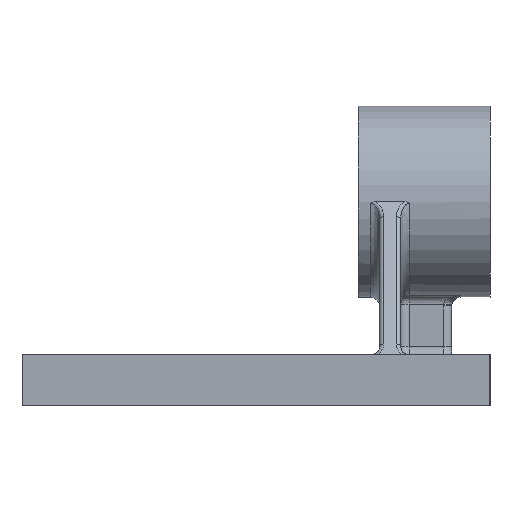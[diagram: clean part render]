
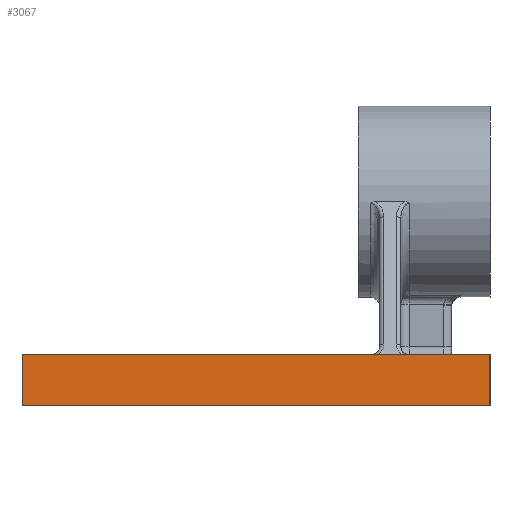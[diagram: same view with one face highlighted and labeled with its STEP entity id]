
A CAD part, left-side view. The second image highlights one B-rep face of the part: STEP entity #3067.
In plain terms, the highlighted planar face has unit normal (-1, 0, 0).
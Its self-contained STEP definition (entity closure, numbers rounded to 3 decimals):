
#2170=CARTESIAN_POINT('',(-90.,55.,12.));
#2171=VERTEX_POINT('',#2170);
#2178=CARTESIAN_POINT('',(-90.0,-55.,12.));
#2179=VERTEX_POINT('',#2178);
#2180=CARTESIAN_POINT('',(-90.0,-55.,12.));
#2181=DIRECTION('',(0.0,1.0,0.0));
#2182=VECTOR('',#2181,110.0);
#2183=LINE('',#2180,#2182);
#2184=EDGE_CURVE('',#2179,#2171,#2183,.T.);
#3026=CARTESIAN_POINT('',(-90.0,-55.,0.0));
#3027=VERTEX_POINT('',#3026);
#3028=CARTESIAN_POINT('',(-90.0,-55.,0.0));
#3029=DIRECTION('',(0.0,0.0,1.0));
#3030=VECTOR('',#3029,12.);
#3031=LINE('',#3028,#3030);
#3032=EDGE_CURVE('',#3027,#2179,#3031,.T.);
#3044=CARTESIAN_POINT('',(-90.0,-55.,0.0));
#3045=DIRECTION('',(-1.0,0.0,0.0));
#3046=DIRECTION('',(0.0,0.0,1.0));
#3047=AXIS2_PLACEMENT_3D('',#3044,#3045,#3046);
#3048=PLANE('',#3047);
#3049=ORIENTED_EDGE('',*,*,#2184,.T.);
#3050=CARTESIAN_POINT('',(-90.,55.,0.0));
#3051=VERTEX_POINT('',#3050);
#3052=CARTESIAN_POINT('',(-90.,55.,0.0));
#3053=DIRECTION('',(0.0,0.0,1.0));
#3054=VECTOR('',#3053,12.);
#3055=LINE('',#3052,#3054);
#3056=EDGE_CURVE('',#3051,#2171,#3055,.T.);
#3057=ORIENTED_EDGE('',*,*,#3056,.F.);
#3058=CARTESIAN_POINT('',(-90.,55.,0.0));
#3059=DIRECTION('',(0.0,-1.0,0.0));
#3060=VECTOR('',#3059,110.0);
#3061=LINE('',#3058,#3060);
#3062=EDGE_CURVE('',#3051,#3027,#3061,.T.);
#3063=ORIENTED_EDGE('',*,*,#3062,.T.);
#3064=ORIENTED_EDGE('',*,*,#3032,.T.);
#3065=EDGE_LOOP('',(#3049,#3057,#3063,#3064));
#3066=FACE_OUTER_BOUND('',#3065,.T.);
#3067=ADVANCED_FACE('',(#3066),#3048,.T.);
